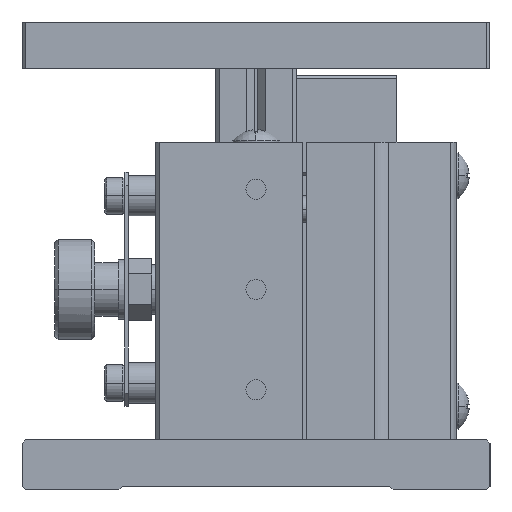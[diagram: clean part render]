
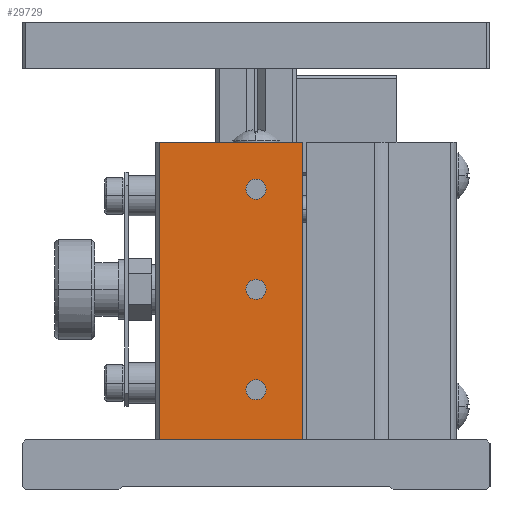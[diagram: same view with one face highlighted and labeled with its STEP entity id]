
A CAD part, left-side view. The second image highlights one B-rep face of the part: STEP entity #29729.
In plain terms, the highlighted planar face has unit normal (-1, 0, 0).
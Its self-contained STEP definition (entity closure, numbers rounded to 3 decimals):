
#4369 = CARTESIAN_POINT ( 'NONE',  ( -34., 14.5, 7.5 ) ) ;
#4370 = DIRECTION ( 'NONE',  ( 0., 1., 0. ) ) ;
#4371 = VECTOR ( 'NONE', #4370, 1000. ) ;
#4372 = CARTESIAN_POINT ( 'NONE',  ( -34., -7., 7.5 ) ) ;
#4373 = LINE ( 'NONE', #4372, #4371 ) ;
#4374 = CARTESIAN_POINT ( 'NONE',  ( -34., -7., 7.5 ) ) ;
#13178 = CIRCLE ( 'NONE', #13241, 1.5 ) ;
#13190 = DIRECTION ( 'NONE',  ( 0., 0., 1. ) ) ;
#13191 = DIRECTION ( 'NONE',  ( -1., 0., 0. ) ) ;
#13192 = AXIS2_PLACEMENT_3D ( 'NONE', #13197, #13191, #13190 ) ;
#13193 = CIRCLE ( 'NONE', #13192, 1.5 ) ;
#13197 = CARTESIAN_POINT ( 'NONE',  ( -34., 0., 45. ) ) ;
#13238 = DIRECTION ( 'NONE',  ( 0., 0., 1. ) ) ;
#13239 = DIRECTION ( 'NONE',  ( -1., 0., 0. ) ) ;
#13240 = CARTESIAN_POINT ( 'NONE',  ( -34., 0., 30. ) ) ;
#13241 = AXIS2_PLACEMENT_3D ( 'NONE', #13240, #13239, #13238 ) ;
#13286 = DIRECTION ( 'NONE',  ( 0., 0., 1. ) ) ;
#13287 = DIRECTION ( 'NONE',  ( -1., 0., 0. ) ) ;
#13288 = CARTESIAN_POINT ( 'NONE',  ( -34., 0., 15. ) ) ;
#13289 = AXIS2_PLACEMENT_3D ( 'NONE', #13288, #13287, #13286 ) ;
#13290 = CIRCLE ( 'NONE', #13289, 1.5 ) ;
#13555 = DIRECTION ( 'NONE',  ( 0., 1., 0. ) ) ;
#13556 = VECTOR ( 'NONE', #13555, 1000. ) ;
#13557 = CARTESIAN_POINT ( 'NONE',  ( -34., -7., 52. ) ) ;
#13558 = LINE ( 'NONE', #13557, #13556 ) ;
#13559 = CARTESIAN_POINT ( 'NONE',  ( -34., 14.5, 52. ) ) ;
#13615 = CARTESIAN_POINT ( 'NONE',  ( -34., -7., 52. ) ) ;
#13689 = DIRECTION ( 'NONE',  ( 0., 0., 1. ) ) ;
#13690 = DIRECTION ( 'NONE',  ( -1., 0., 0. ) ) ;
#13691 = AXIS2_PLACEMENT_3D ( 'NONE', #13692, #13690, #13689 ) ;
#13692 = CARTESIAN_POINT ( 'NONE',  ( -34., -7., 52. ) ) ;
#13693 = PLANE ( 'NONE',  #13691 ) ;
#13694 = FACE_OUTER_BOUND ( 'NONE', #29715, .T. ) ;
#13695 = FACE_BOUND ( 'NONE', #29712, .T. ) ;
#13696 = FACE_BOUND ( 'NONE', #29733, .T. ) ;
#13697 = FACE_BOUND ( 'NONE', #29730, .T. ) ;
#13698 = DIRECTION ( 'NONE',  ( 0., 0., -1. ) ) ;
#13699 = VECTOR ( 'NONE', #13698, 1000. ) ;
#13700 = CARTESIAN_POINT ( 'NONE',  ( -34., 14.5, 52. ) ) ;
#13706 = LINE ( 'NONE', #13700, #13699 ) ;
#13708 = DIRECTION ( 'NONE',  ( 0., 0., -1. ) ) ;
#13709 = VECTOR ( 'NONE', #13708, 1000. ) ;
#13710 = CARTESIAN_POINT ( 'NONE',  ( -34., -7., 52. ) ) ;
#13711 = LINE ( 'NONE', #13710, #13709 ) ;
#23600 = CARTESIAN_POINT ( 'NONE',  ( -34., 0., 16.5 ) ) ;
#23601 = DIRECTION ( 'NONE',  ( 0., 0., 1. ) ) ;
#23602 = DIRECTION ( 'NONE',  ( -1., 0., 0. ) ) ;
#23603 = CARTESIAN_POINT ( 'NONE',  ( -34., 0., 15. ) ) ;
#23604 = AXIS2_PLACEMENT_3D ( 'NONE', #23603, #23602, #23601 ) ;
#23605 = CIRCLE ( 'NONE', #23604, 1.5 ) ;
#23606 = CARTESIAN_POINT ( 'NONE',  ( -34., 0., 13.5 ) ) ;
#23688 = CARTESIAN_POINT ( 'NONE',  ( -34., 0., 46.5 ) ) ;
#23689 = DIRECTION ( 'NONE',  ( 0., 0., 1. ) ) ;
#23690 = DIRECTION ( 'NONE',  ( -1., 0., 0. ) ) ;
#23691 = CARTESIAN_POINT ( 'NONE',  ( -34., 0., 45. ) ) ;
#23692 = AXIS2_PLACEMENT_3D ( 'NONE', #23691, #23690, #23689 ) ;
#23693 = CIRCLE ( 'NONE', #23692, 1.5 ) ;
#23694 = CARTESIAN_POINT ( 'NONE',  ( -34., 0., 43.5 ) ) ;
#23714 = CARTESIAN_POINT ( 'NONE',  ( -34., 0., 31.5 ) ) ;
#23715 = DIRECTION ( 'NONE',  ( 0., 0., 1. ) ) ;
#23716 = DIRECTION ( 'NONE',  ( -1., 0., 0. ) ) ;
#23717 = CARTESIAN_POINT ( 'NONE',  ( -34., 0., 30. ) ) ;
#23718 = AXIS2_PLACEMENT_3D ( 'NONE', #23717, #23716, #23715 ) ;
#23719 = CIRCLE ( 'NONE', #23718, 1.5 ) ;
#23720 = CARTESIAN_POINT ( 'NONE',  ( -34., 0., 28.5 ) ) ;
#29345 = EDGE_CURVE ( 'NONE', #35544, #35541, #13193, .T. ) ;
#29352 = EDGE_CURVE ( 'NONE', #35561, #35558, #13178, .T. ) ;
#29412 = EDGE_CURVE ( 'NONE', #35494, #35491, #13290, .T. ) ;
#29605 = VERTEX_POINT ( 'NONE', #13559 ) ;
#29607 = EDGE_CURVE ( 'NONE', #29608, #29605, #13558, .T. ) ;
#29608 = VERTEX_POINT ( 'NONE', #13615 ) ;
#29712 = EDGE_LOOP ( 'NONE', ( #29713, #29714 ) ) ;
#29713 = ORIENTED_EDGE ( 'NONE', *, *, #29412, .F. ) ;
#29714 = ORIENTED_EDGE ( 'NONE', *, *, #35493, .F. ) ;
#29715 = EDGE_LOOP ( 'NONE', ( #29716, #29717, #29719, #29720 ) ) ;
#29716 = ORIENTED_EDGE ( 'NONE', *, *, #38125, .F. ) ;
#29717 = ORIENTED_EDGE ( 'NONE', *, *, #29718, .F. ) ;
#29718 = EDGE_CURVE ( 'NONE', #29608, #38123, #13711, .T. ) ;
#29719 = ORIENTED_EDGE ( 'NONE', *, *, #29607, .T. ) ;
#29720 = ORIENTED_EDGE ( 'NONE', *, *, #29726, .T. ) ;
#29726 = EDGE_CURVE ( 'NONE', #29605, #38126, #13706, .T. ) ;
#29729 = ADVANCED_FACE ( 'NONE', ( #13697, #13696, #13695, #13694 ), #13693, .T. ) ;
#29730 = EDGE_LOOP ( 'NONE', ( #29731, #29732 ) ) ;
#29731 = ORIENTED_EDGE ( 'NONE', *, *, #29345, .F. ) ;
#29732 = ORIENTED_EDGE ( 'NONE', *, *, #35543, .F. ) ;
#29733 = EDGE_LOOP ( 'NONE', ( #29734, #29790 ) ) ;
#29734 = ORIENTED_EDGE ( 'NONE', *, *, #29352, .F. ) ;
#29790 = ORIENTED_EDGE ( 'NONE', *, *, #35560, .F. ) ;
#35491 = VERTEX_POINT ( 'NONE', #23606 ) ;
#35493 = EDGE_CURVE ( 'NONE', #35491, #35494, #23605, .T. ) ;
#35494 = VERTEX_POINT ( 'NONE', #23600 ) ;
#35541 = VERTEX_POINT ( 'NONE', #23694 ) ;
#35543 = EDGE_CURVE ( 'NONE', #35541, #35544, #23693, .T. ) ;
#35544 = VERTEX_POINT ( 'NONE', #23688 ) ;
#35558 = VERTEX_POINT ( 'NONE', #23720 ) ;
#35560 = EDGE_CURVE ( 'NONE', #35558, #35561, #23719, .T. ) ;
#35561 = VERTEX_POINT ( 'NONE', #23714 ) ;
#38123 = VERTEX_POINT ( 'NONE', #4374 ) ;
#38125 = EDGE_CURVE ( 'NONE', #38123, #38126, #4373, .T. ) ;
#38126 = VERTEX_POINT ( 'NONE', #4369 ) ;
